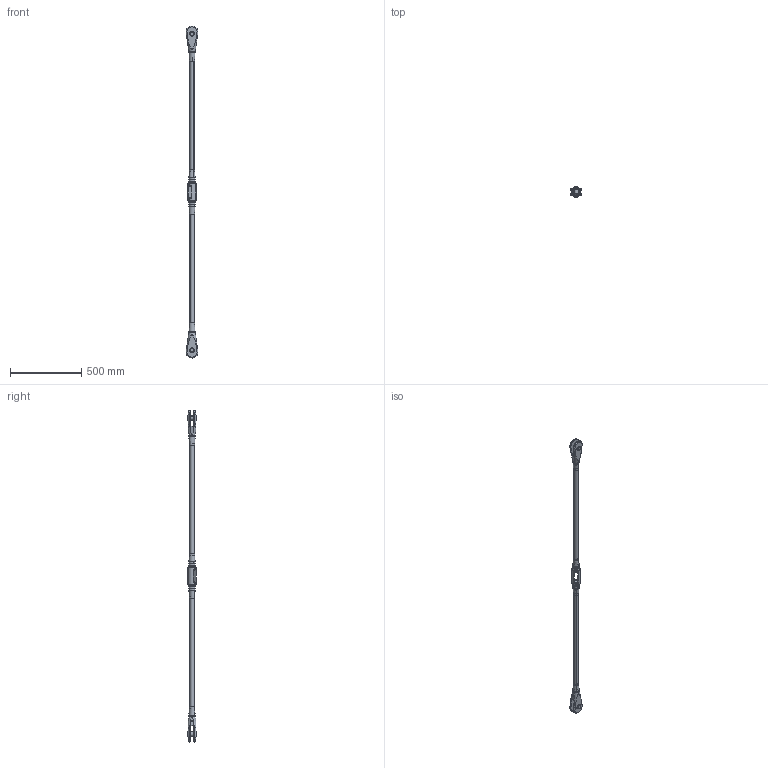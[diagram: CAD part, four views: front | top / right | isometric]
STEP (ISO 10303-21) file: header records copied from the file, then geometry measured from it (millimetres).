
FILE_DESCRIPTION (( 'STEP AP203' ), '1' );
FILE_NAME ('M30 G+AB+K.STEP', '2018-02-14T11:42:09', ( 'install' ), ( 'Hewlett-Packard Company' ), 'SwSTEP 2.0', 'SolidWorks 2017', '' );
FILE_SCHEMA (( 'CONFIG_CONTROL_DESIGN' ));
Length unit declared in the file: millimetre
Products named in the file (6): Bolzen SicherungsringVarB_generisch_M30; M30 G+AB+K; Gabelkopf Kunde_M30; Abdeckhülse_generisch_M30; Kreuzmuffe_M30; Zugstab_M30
Assembly tree (11 placements, depth 2):
  M30 G+AB+K
    Gabelkopf Kunde_M30  x2
    Abdeckhülse_generisch_M30  x4
    Kreuzmuffe_M30
    Zugstab_M30  x2
    Bolzen SicherungsringVarB_generisch_M30  x2
Bounding box: 82.96 x 67 x 2335 mm (x, y, z)
Volume: 2407474.4 mm3; surface area: 433974 mm2
Topology: 11 solids, 11 shells, 356 faces, 895 edges, 551 vertices
Faces by surface type: cylinder 186, plane 76, cone 54, torus 25, bspline 15
Entity records: 12418 total; most frequent: CARTESIAN_POINT 7396, ORIENTED_EDGE 956, DIRECTION 836, EDGE_CURVE 478, AXIS2_PLACEMENT_3D 345, VERTEX_POINT 295, EDGE_LOOP 209, FACE_OUTER_BOUND 188
